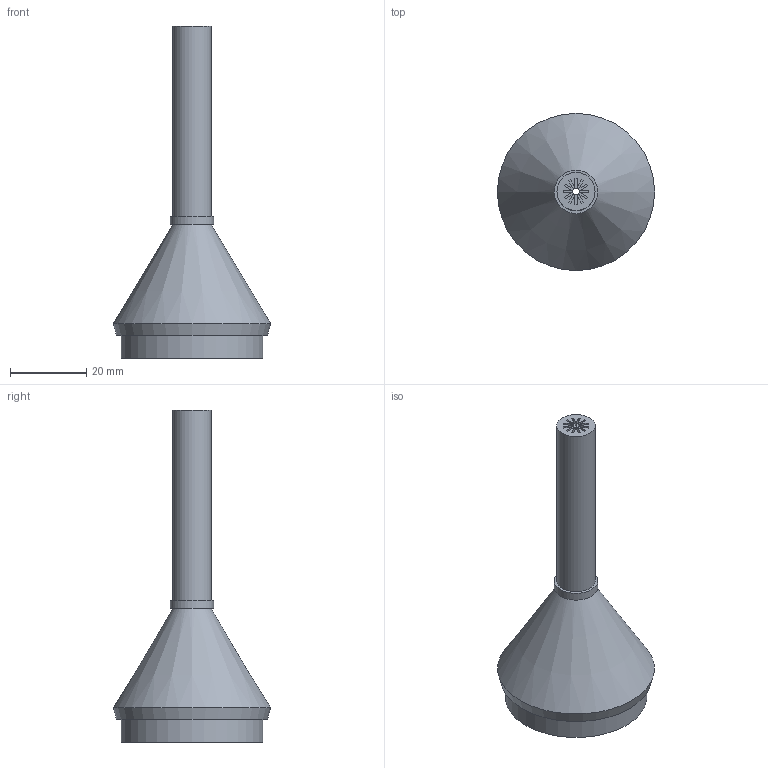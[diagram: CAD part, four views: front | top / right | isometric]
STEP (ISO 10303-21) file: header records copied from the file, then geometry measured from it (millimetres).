
FILE_DESCRIPTION(('Open CASCADE Model'),'2;1');
FILE_NAME('Open CASCADE Shape Model','2026-11-19T20:29:08',('Author'),( 'Open CASCADE'),'Open CASCADE STEP processor 8.0','build123d', 'Unknown');
FILE_SCHEMA(('AUTOMOTIVE_DESIGN { 1 0 10303 214 1 1 1 1 }'));
Length unit declared in the file: millimetre
Products named in the file (1): COMPOUND
Bounding box: 41.2 x 41.2 x 87 mm (x, y, z)
Volume: 11390.7 mm3; surface area: 9559.6 mm2
Topology: 1 solids, 1 shells, 55 faces, 136 edges, 90 vertices
Faces by surface type: plane 45, cylinder 7, cone 3
Full cylindrical faces by diameter (mm): 1.8 x1, 6 x1, 8.3 x1, 10 x1, 11.4 x1, 32.7 x1, 37.1 x1
Entity records: 3372 total; most frequent: CARTESIAN_POINT 585, DIRECTION 512, LINE 349, VECTOR 349, ORIENTED_EDGE 272, PCURVE 272, DEFINITIONAL_REPRESENTATION 272, EDGE_CURVE 136
